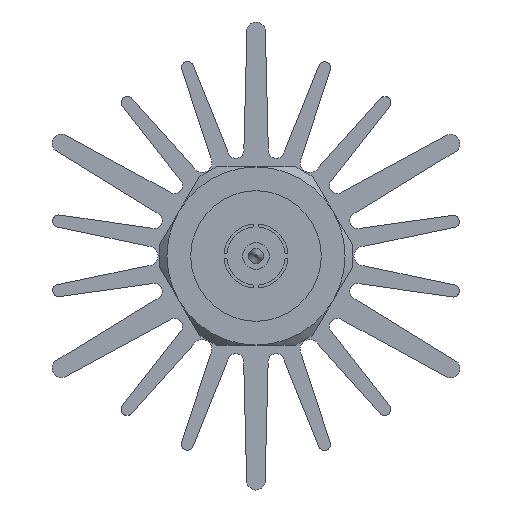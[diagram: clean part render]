
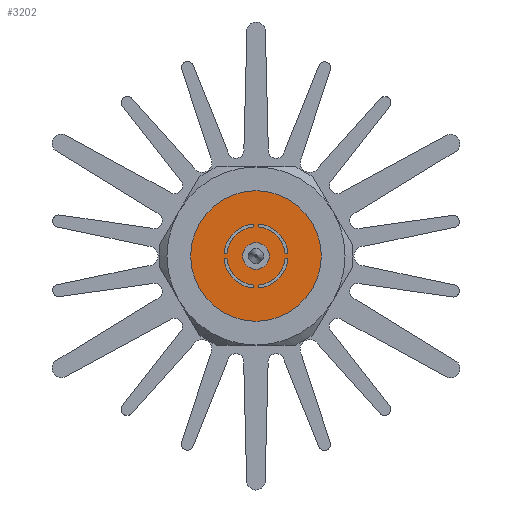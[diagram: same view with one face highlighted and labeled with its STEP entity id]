
A CAD part, left-side view. The second image highlights one B-rep face of the part: STEP entity #3202.
In plain terms, the highlighted planar face has unit normal (-1, 0, 0).
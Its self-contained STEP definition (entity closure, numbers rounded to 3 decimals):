
#200=CIRCLE('',#3401,3.639);
#202=CIRCLE('',#3404,3.639);
#204=CIRCLE('',#3407,3.639);
#208=CIRCLE('',#3415,4.001);
#209=CIRCLE('',#3417,4.001);
#210=CIRCLE('',#3419,4.001);
#215=CIRCLE('',#3429,1.651);
#217=CIRCLE('',#3432,3.639);
#219=CIRCLE('',#3436,4.001);
#220=CIRCLE('',#3438,8.15);
#745=ORIENTED_EDGE('',*,*,#1187,.T.);
#746=ORIENTED_EDGE('',*,*,#1180,.T.);
#747=ORIENTED_EDGE('',*,*,#1188,.T.);
#748=ORIENTED_EDGE('',*,*,#1185,.F.);
#749=ORIENTED_EDGE('',*,*,#1189,.T.);
#750=ORIENTED_EDGE('',*,*,#1145,.T.);
#751=ORIENTED_EDGE('',*,*,#1190,.T.);
#752=ORIENTED_EDGE('',*,*,#1164,.F.);
#753=ORIENTED_EDGE('',*,*,#1191,.T.);
#754=ORIENTED_EDGE('',*,*,#1149,.T.);
#755=ORIENTED_EDGE('',*,*,#1192,.T.);
#756=ORIENTED_EDGE('',*,*,#1167,.F.);
#757=ORIENTED_EDGE('',*,*,#1193,.T.);
#758=ORIENTED_EDGE('',*,*,#1153,.T.);
#759=ORIENTED_EDGE('',*,*,#1194,.T.);
#760=ORIENTED_EDGE('',*,*,#1170,.F.);
#761=ORIENTED_EDGE('',*,*,#1195,.T.);
#762=ORIENTED_EDGE('',*,*,#1176,.F.);
#1145=EDGE_CURVE('',#1400,#1402,#200,.T.);
#1149=EDGE_CURVE('',#1404,#1406,#202,.T.);
#1153=EDGE_CURVE('',#1408,#1410,#204,.T.);
#1164=EDGE_CURVE('',#1417,#1418,#208,.T.);
#1167=EDGE_CURVE('',#1419,#1420,#209,.T.);
#1170=EDGE_CURVE('',#1421,#1422,#210,.T.);
#1176=EDGE_CURVE('',#1427,#1427,#215,.T.);
#1180=EDGE_CURVE('',#1429,#1431,#217,.T.);
#1185=EDGE_CURVE('',#1434,#1435,#219,.T.);
#1187=EDGE_CURVE('',#1434,#1429,#1627,.T.);
#1188=EDGE_CURVE('',#1431,#1435,#1628,.T.);
#1189=EDGE_CURVE('',#1417,#1400,#1629,.T.);
#1190=EDGE_CURVE('',#1402,#1418,#1630,.T.);
#1191=EDGE_CURVE('',#1419,#1404,#1631,.T.);
#1192=EDGE_CURVE('',#1406,#1420,#1632,.T.);
#1193=EDGE_CURVE('',#1421,#1408,#1633,.T.);
#1194=EDGE_CURVE('',#1410,#1422,#1634,.T.);
#1195=EDGE_CURVE('',#1436,#1436,#220,.T.);
#1400=VERTEX_POINT('',#4695);
#1402=VERTEX_POINT('',#4699);
#1404=VERTEX_POINT('',#4704);
#1406=VERTEX_POINT('',#4708);
#1408=VERTEX_POINT('',#4713);
#1410=VERTEX_POINT('',#4717);
#1417=VERTEX_POINT('',#4739);
#1418=VERTEX_POINT('',#4741);
#1419=VERTEX_POINT('',#4745);
#1420=VERTEX_POINT('',#4747);
#1421=VERTEX_POINT('',#4751);
#1422=VERTEX_POINT('',#4753);
#1427=VERTEX_POINT('',#4769);
#1429=VERTEX_POINT('',#4773);
#1431=VERTEX_POINT('',#4777);
#1434=VERTEX_POINT('',#4787);
#1435=VERTEX_POINT('',#4789);
#1436=VERTEX_POINT('',#4801);
#1627=LINE('',#4792,#1815);
#1628=LINE('',#4793,#1816);
#1629=LINE('',#4794,#1817);
#1630=LINE('',#4795,#1818);
#1631=LINE('',#4796,#1819);
#1632=LINE('',#4797,#1820);
#1633=LINE('',#4798,#1821);
#1634=LINE('',#4799,#1822);
#1815=VECTOR('',#4047,1000.);
#1816=VECTOR('',#4048,1000.);
#1817=VECTOR('',#4049,1000.);
#1818=VECTOR('',#4050,1000.);
#1819=VECTOR('',#4051,1000.);
#1820=VECTOR('',#4052,1000.);
#1821=VECTOR('',#4053,1000.);
#1822=VECTOR('',#4054,1000.);
#1937=EDGE_LOOP('',(#745,#746,#747,#748));
#1938=EDGE_LOOP('',(#749,#750,#751,#752));
#1939=EDGE_LOOP('',(#753,#754,#755,#756));
#1940=EDGE_LOOP('',(#757,#758,#759,#760));
#1941=EDGE_LOOP('',(#761));
#1942=EDGE_LOOP('',(#762));
#2083=FACE_BOUND('',#1937,.T.);
#2084=FACE_BOUND('',#1938,.T.);
#2085=FACE_BOUND('',#1939,.T.);
#2086=FACE_BOUND('',#1940,.T.);
#2087=FACE_BOUND('',#1941,.T.);
#2088=FACE_BOUND('',#1942,.T.);
#2171=PLANE('',#3437);
#3202=ADVANCED_FACE('',(#2083,#2084,#2085,#2086,#2087,#2088),#2171,.T.);
#3401=AXIS2_PLACEMENT_3D('',#4700,#3951,#3952);
#3404=AXIS2_PLACEMENT_3D('',#4709,#3959,#3960);
#3407=AXIS2_PLACEMENT_3D('',#4718,#3967,#3968);
#3415=AXIS2_PLACEMENT_3D('',#4740,#3990,#3991);
#3417=AXIS2_PLACEMENT_3D('',#4746,#3996,#3997);
#3419=AXIS2_PLACEMENT_3D('',#4752,#4002,#4003);
#3429=AXIS2_PLACEMENT_3D('',#4768,#4023,#4024);
#3432=AXIS2_PLACEMENT_3D('',#4778,#4031,#4032);
#3436=AXIS2_PLACEMENT_3D('',#4788,#4042,#4043);
#3437=AXIS2_PLACEMENT_3D('',#4791,#4045,#4046);
#3438=AXIS2_PLACEMENT_3D('',#4800,#4055,#4056);
#3951=DIRECTION('',(-1.,0.,0.));
#3952=DIRECTION('',(0.,0.,-1.));
#3959=DIRECTION('',(-1.,0.,0.));
#3960=DIRECTION('',(0.,0.,-1.));
#3967=DIRECTION('',(-1.,0.,0.));
#3968=DIRECTION('',(0.,0.,-1.));
#3990=DIRECTION('',(-1.,0.,0.));
#3991=DIRECTION('',(0.,0.,-1.));
#3996=DIRECTION('',(-1.,0.,0.));
#3997=DIRECTION('',(0.,0.,-1.));
#4002=DIRECTION('',(-1.,0.,0.));
#4003=DIRECTION('',(0.,0.,-1.));
#4023=DIRECTION('',(-1.,0.,0.));
#4024=DIRECTION('',(0.,0.,-1.));
#4031=DIRECTION('',(-1.,0.,0.));
#4032=DIRECTION('',(0.,0.,-1.));
#4042=DIRECTION('',(-1.,0.,0.));
#4043=DIRECTION('',(0.,0.,-1.));
#4045=DIRECTION('',(-1.,0.,0.));
#4046=DIRECTION('',(0.,0.,-1.));
#4047=DIRECTION('',(0.,1.,0.));
#4048=DIRECTION('',(0.,0.,1.));
#4049=DIRECTION('',(0.,0.,-1.));
#4050=DIRECTION('',(0.,1.,0.));
#4051=DIRECTION('',(0.,-1.,0.));
#4052=DIRECTION('',(0.,0.,-1.));
#4053=DIRECTION('',(0.,0.,1.));
#4054=DIRECTION('',(0.,-1.,0.));
#4055=DIRECTION('',(-1.,0.,0.));
#4056=DIRECTION('',(0.,0.,-1.));
#4695=CARTESIAN_POINT('',(-58.42,0.25,3.63));
#4699=CARTESIAN_POINT('',(-58.42,3.63,0.25));
#4700=CARTESIAN_POINT('',(-58.42,0.,0.));
#4704=CARTESIAN_POINT('',(-58.42,3.63,-0.25));
#4708=CARTESIAN_POINT('',(-58.42,0.25,-3.63));
#4709=CARTESIAN_POINT('',(-58.42,0.,0.));
#4713=CARTESIAN_POINT('',(-58.42,-0.25,-3.63));
#4717=CARTESIAN_POINT('',(-58.42,-3.63,-0.25));
#4718=CARTESIAN_POINT('',(-58.42,0.,0.));
#4739=CARTESIAN_POINT('',(-58.42,0.25,3.993));
#4740=CARTESIAN_POINT('',(-58.42,0.,0.));
#4741=CARTESIAN_POINT('',(-58.42,3.993,0.25));
#4745=CARTESIAN_POINT('',(-58.42,3.993,-0.25));
#4746=CARTESIAN_POINT('',(-58.42,0.,0.));
#4747=CARTESIAN_POINT('',(-58.42,0.25,-3.993));
#4751=CARTESIAN_POINT('',(-58.42,-0.25,-3.993));
#4752=CARTESIAN_POINT('',(-58.42,0.,0.));
#4753=CARTESIAN_POINT('',(-58.42,-3.993,-0.25));
#4768=CARTESIAN_POINT('',(-58.42,0.,0.));
#4769=CARTESIAN_POINT('',(-58.42,0.,-1.651));
#4773=CARTESIAN_POINT('',(-58.42,-3.63,0.25));
#4777=CARTESIAN_POINT('',(-58.42,-0.25,3.63));
#4778=CARTESIAN_POINT('',(-58.42,0.,0.));
#4787=CARTESIAN_POINT('',(-58.42,-3.993,0.25));
#4788=CARTESIAN_POINT('',(-58.42,0.,0.));
#4789=CARTESIAN_POINT('',(-58.42,-0.25,3.993));
#4791=CARTESIAN_POINT('',(-58.42,-4.001,0.));
#4792=CARTESIAN_POINT('',(-58.42,-4.191,0.25));
#4793=CARTESIAN_POINT('',(-58.42,-0.25,2.144));
#4794=CARTESIAN_POINT('',(-58.42,0.25,4.191));
#4795=CARTESIAN_POINT('',(-58.42,2.144,0.25));
#4796=CARTESIAN_POINT('',(-58.42,4.191,-0.25));
#4797=CARTESIAN_POINT('',(-58.42,0.25,-2.144));
#4798=CARTESIAN_POINT('',(-58.42,-0.25,-4.191));
#4799=CARTESIAN_POINT('',(-58.42,-2.144,-0.25));
#4800=CARTESIAN_POINT('',(-58.42,0.,0.));
#4801=CARTESIAN_POINT('',(-58.42,0.,-8.15));
